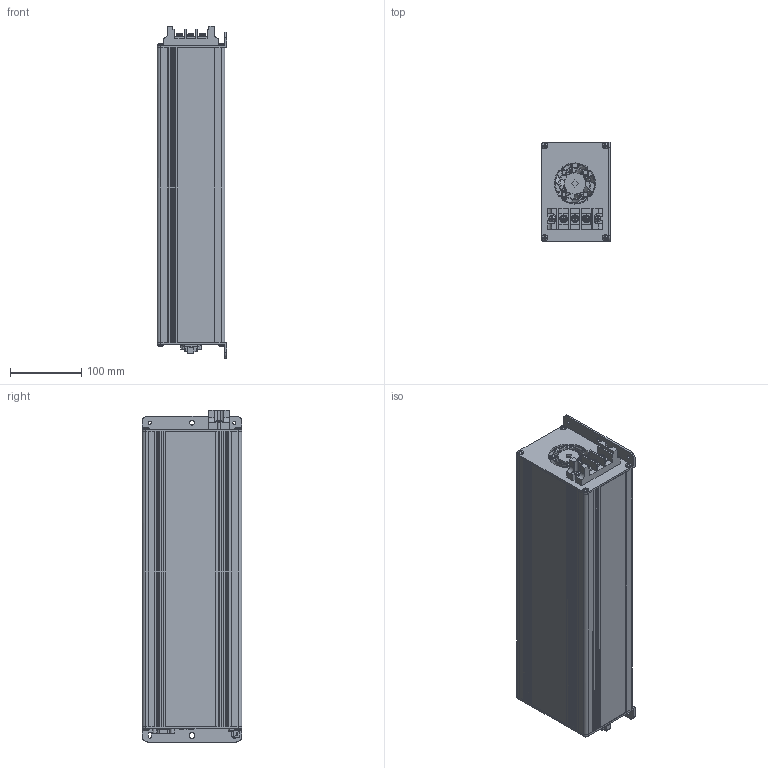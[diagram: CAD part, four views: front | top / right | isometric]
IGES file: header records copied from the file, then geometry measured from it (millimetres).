
Global section: file name: DH415COM; native system: Autodesk Inventor 2021; preprocessor: unknown; author: eunsol jang; date: 20220616.144225; units: inch
Bounding box: 98.5 x 140 x 467.5 mm (x, y, z)
Volume: 753662.2 mm3; surface area: 529075.8 mm2
Topology: 3 solids, 3 shells, 2625 faces, 8369 edges, 6007 vertices
Faces by surface type: bspline 2625
